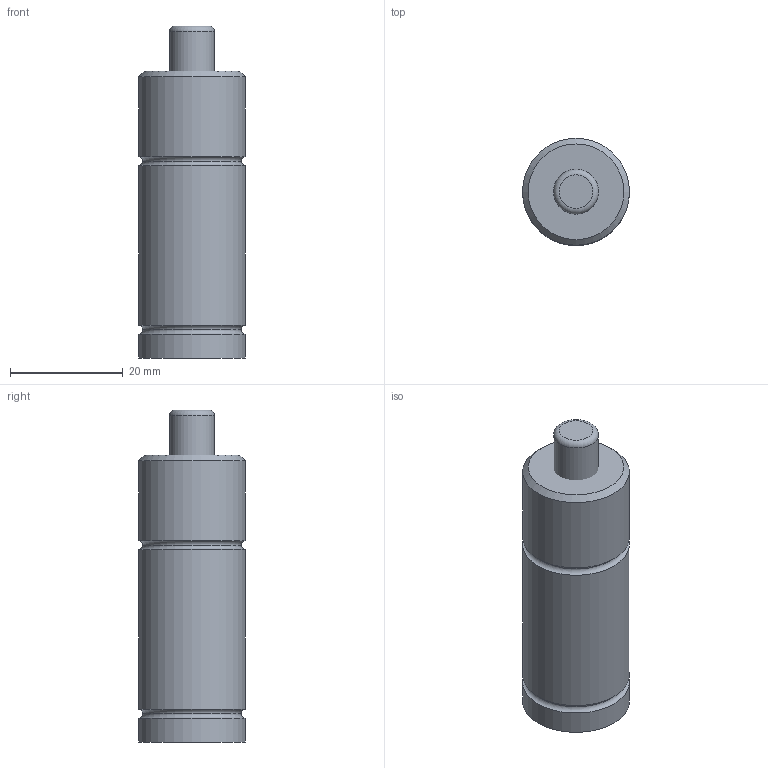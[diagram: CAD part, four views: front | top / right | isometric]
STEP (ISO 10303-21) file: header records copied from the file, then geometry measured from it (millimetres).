
FILE_DESCRIPTION(('FreeCAD Model'),'2;1');
FILE_NAME('Open CASCADE Shape Model','2024-11-14T10:56:05',('Author'),( ''),'Open CASCADE STEP processor 7.6','FreeCAD','Unknown');
FILE_SCHEMA(('AUTOMOTIVE_DESIGN { 1 0 10303 214 1 1 1 1 }'));
Length unit declared in the file: millimetre
Products named in the file (5): Unnamed; Part; Fillet; Part005; Cut001
Assembly tree (4 placements, depth 3):
  Unnamed
    Part
      Fillet
    Part005
      Cut001
Bounding box: 19 x 19 x 59 mm (x, y, z)
Volume: 14637.1 mm3; surface area: 4184.5 mm2
Topology: 2 solids, 2 shells, 16 faces, 25 edges, 14 vertices
Faces by surface type: cylinder 5, torus 5, plane 5, cone 1
Full cylindrical faces by diameter (mm): 6 x1, 8 x1, 19 x3
Entity records: 466 total; most frequent: DIRECTION 86, CARTESIAN_POINT 60, ORIENTED_EDGE 50, AXIS2_PLACEMENT_3D 40, EDGE_CURVE 25, CIRCLE 19, FACE_BOUND 17, EDGE_LOOP 17
